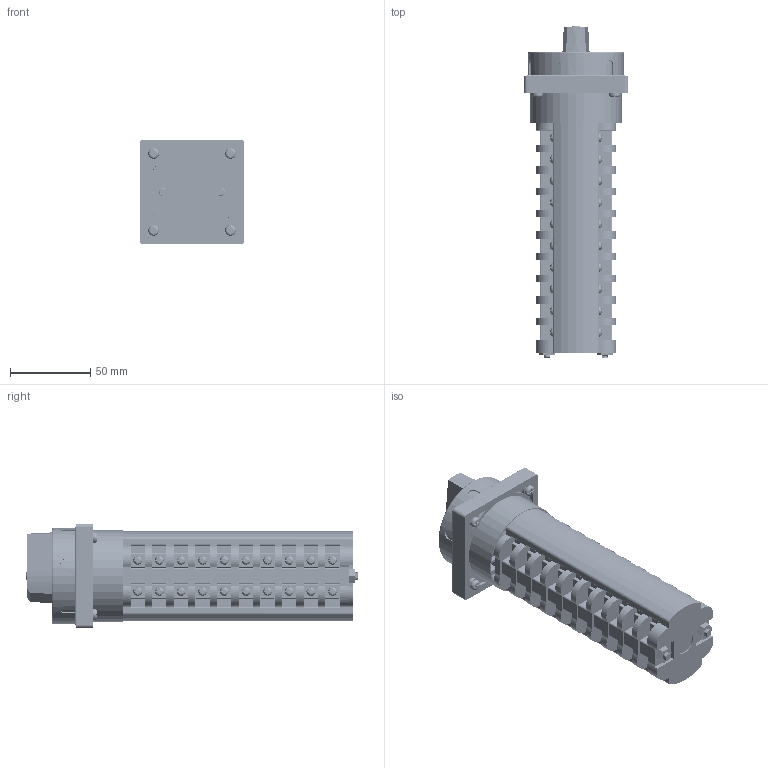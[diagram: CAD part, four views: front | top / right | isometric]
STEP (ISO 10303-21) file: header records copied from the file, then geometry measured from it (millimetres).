
FILE_DESCRIPTION(/* description */ (''),/* implementation_level */ '2;1');
FILE_NAME(/* name */ '4G16,25_S6_10_korpusow.stp',/* time_stamp */ '2021-07-21T10:08:46+02:00',/* author */ (''),/* organization */ (''),/* preprocessor_version */ 'ST-DEVELOPER v18.1',/* originating_system */ 'SIEMENS PLM Software NX 1965',/* authorisation */ '');
FILE_SCHEMA (('AUTOMOTIVE_DESIGN { 1 0 10303 214 3 1 1 1 }'));
Products named in the file (1): 4G16,25_S6_10_korpusow_stp
Bounding box: 65 x 207.1 x 65 mm (x, y, z)
Volume: 387584.3 mm3; surface area: 86987.2 mm2
Topology: 2 solids, 11 shells, 2214 faces, 6204 edges, 4086 vertices
Faces by surface type: plane 1319, cylinder 589, bspline 199, cone 86, torus 15, extrusion 6
Full cylindrical faces by diameter (mm): 2.9 x7, 3.1 x1, 4.3 x4, 5 x2, 5.4 x41, 5.6 x1, 6 x1, 6.7 x4, 7.2 x4, 8 x1, 14 x1, 55.8 x1, 57 x1, 58 x1, 60 x1
Entity records: 202579 total; most frequent: CARTESIAN_POINT 148336, ORIENTED_EDGE 11916, DIRECTION 10181, EDGE_CURVE 5958, VERTEX_POINT 3967, AXIS2_PLACEMENT_3D 3640, VECTOR 2901, LINE 2895
